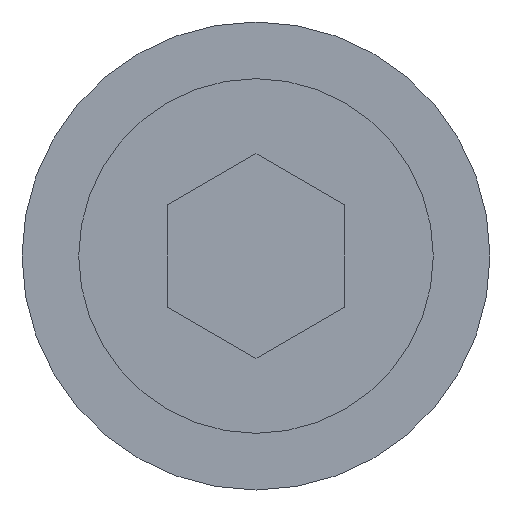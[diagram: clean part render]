
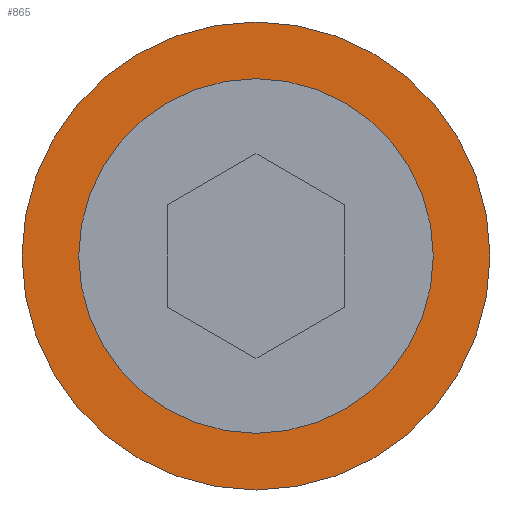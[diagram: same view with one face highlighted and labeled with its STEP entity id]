
A CAD part, left-side view. The second image highlights one B-rep face of the part: STEP entity #865.
In plain terms, the highlighted planar face has unit normal (-1, 0, 0).
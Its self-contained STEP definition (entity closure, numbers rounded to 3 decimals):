
#838=CARTESIAN_POINT('',(153.417,101.962,18.3));
#839=VERTEX_POINT('',#838);
#840=CARTESIAN_POINT('',(153.417,101.962,15.));
#841=DIRECTION('',(1.,0.,0.));
#842=DIRECTION('',(0.,0.,1.));
#843=AXIS2_PLACEMENT_3D('',#840,#841,#842);
#844=CIRCLE('',#843,3.3);
#845=EDGE_CURVE('',#839,#839,#844,.T.);
#846=ORIENTED_EDGE('',*,*,#845,.F.);
#847=EDGE_LOOP('',(#846));
#848=FACE_OUTER_BOUND('',#847,.T.);
#849=CARTESIAN_POINT('',(153.417,101.962,17.5));
#850=VERTEX_POINT('',#849);
#851=CARTESIAN_POINT('',(153.417,101.962,15.));
#852=DIRECTION('',(1.,0.,0.));
#853=DIRECTION('',(0.,0.,1.));
#854=AXIS2_PLACEMENT_3D('',#851,#852,#853);
#855=CIRCLE('',#854,2.5);
#856=EDGE_CURVE('',#850,#850,#855,.T.);
#857=ORIENTED_EDGE('',*,*,#856,.T.);
#858=EDGE_LOOP('',(#857));
#859=FACE_BOUND('',#858,.T.);
#860=CARTESIAN_POINT('',(153.417,101.962,16.65));
#861=DIRECTION('',(-1.,0.,0.));
#862=DIRECTION('',(0.,0.,-1.));
#863=AXIS2_PLACEMENT_3D('',#860,#861,#862);
#864=PLANE('',#863);
#865=ADVANCED_FACE('',(#848,#859),#864,.T.);
